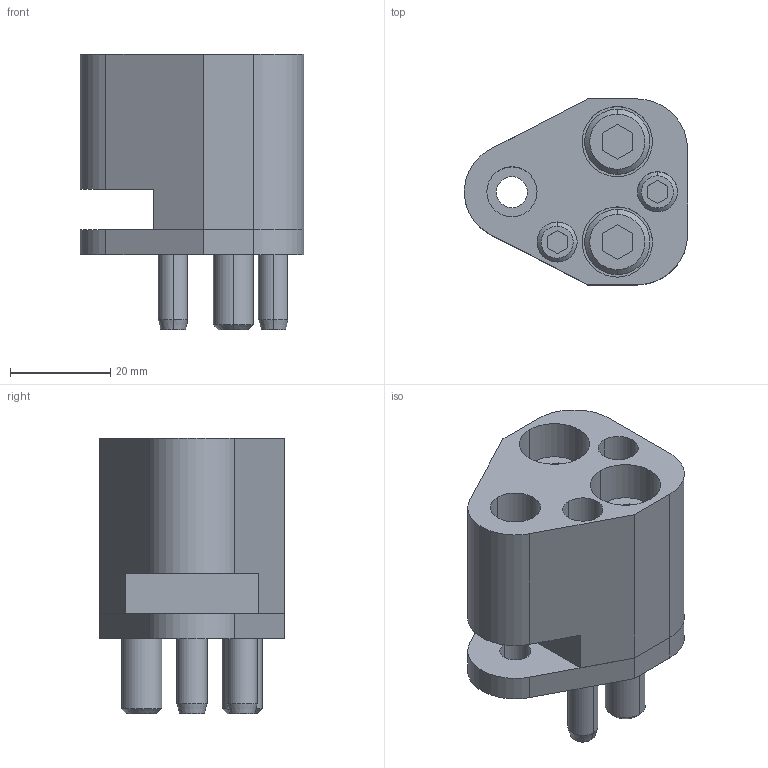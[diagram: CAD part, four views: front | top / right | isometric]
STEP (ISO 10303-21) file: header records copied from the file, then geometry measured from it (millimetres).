
FILE_DESCRIPTION(/* description */ (''),/* implementation_level */ '2;1');
FILE_NAME(/* name */ '3d_hap-fp10_02772_r00.stp',/* time_stamp */ '2011-01-10T14:14:58+09:00',/* author */ ('MISUMI'),/* organization */ (''),/* preprocessor_version */ 'ST-DEVELOPER v11',/* originating_system */ 'UGS - NX 5.0',/* authorisation */ '');
FILE_SCHEMA (('CONFIG_CONTROL_DESIGN'));
Length unit declared in the file: millimetre
Products named in the file (1): 3d_hap-fp10_02772_r00
Bounding box: 44.47 x 37 x 55 mm (x, y, z)
Volume: 42920.4 mm3; surface area: 20220.1 mm2
Topology: 8 solids, 8 shells, 156 faces, 356 edges, 229 vertices
Faces by surface type: plane 70, cylinder 60, cone 26
Entity records: 4562 total; most frequent: DIRECTION 812, CARTESIAN_POINT 795, ORIENTED_EDGE 712, EDGE_CURVE 356, AXIS2_PLACEMENT_3D 304, VERTEX_POINT 229, LINE 204, VECTOR 204
